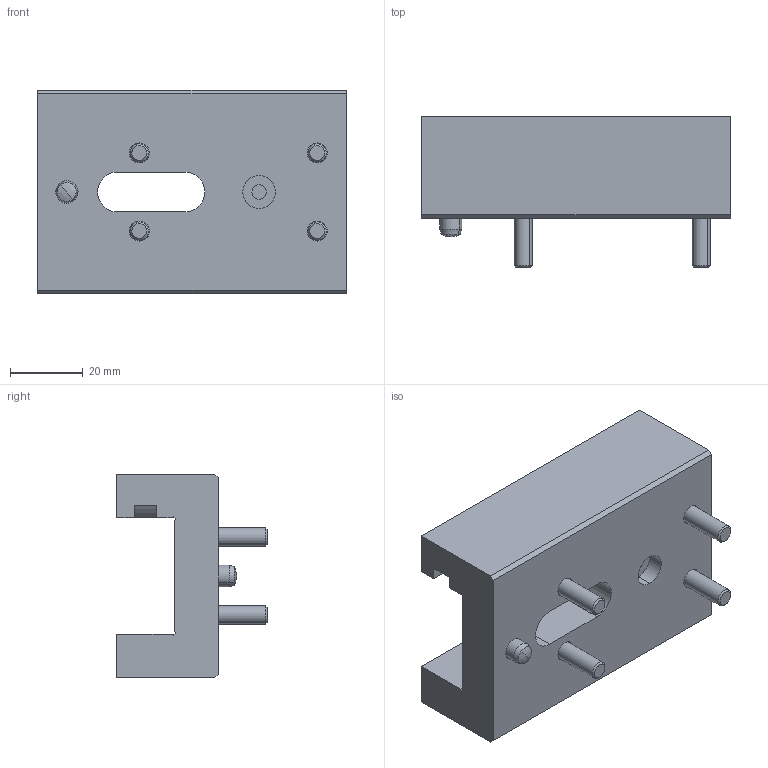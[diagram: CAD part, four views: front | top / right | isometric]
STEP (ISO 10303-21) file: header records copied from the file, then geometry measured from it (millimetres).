
FILE_DESCRIPTION (( 'STEP AP214' ), '1' );
FILE_NAME ('BC322885.STEP', '2013-06-13T09:41:23', ( '' ), ( '' ), 'SwSTEP 2.0', 'SolidWorks 2011', '' );
FILE_SCHEMA (( 'AUTOMOTIVE_DESIGN' ));
Length unit declared in the file: millimetre
Products named in the file (5): 1DIN912520_DIN 912 M5 x 20 --- 20C; 1PCI6325614; RI171206; 9BC322885; BC322885
Assembly tree (7 placements, depth 2):
  BC322885
    1DIN912520_DIN 912 M5 x 20 --- 20C  x4
    RI171206
    1PCI6325614
    9BC322885
Bounding box: 85 x 41.5 x 56 mm (x, y, z)
Volume: 84143.5 mm3; surface area: 24808.9 mm2
Topology: 7 solids, 8 shells, 212 faces, 477 edges, 289 vertices
Faces by surface type: plane 96, cylinder 62, cone 32, torus 18, sphere 4
Entity records: 4377 total; most frequent: DIRECTION 723, CARTESIAN_POINT 630, ORIENTED_EDGE 598, EDGE_CURVE 299, AXIS2_PLACEMENT_3D 283, VERTEX_POINT 190, LINE 157, EDGE_LOOP 157
